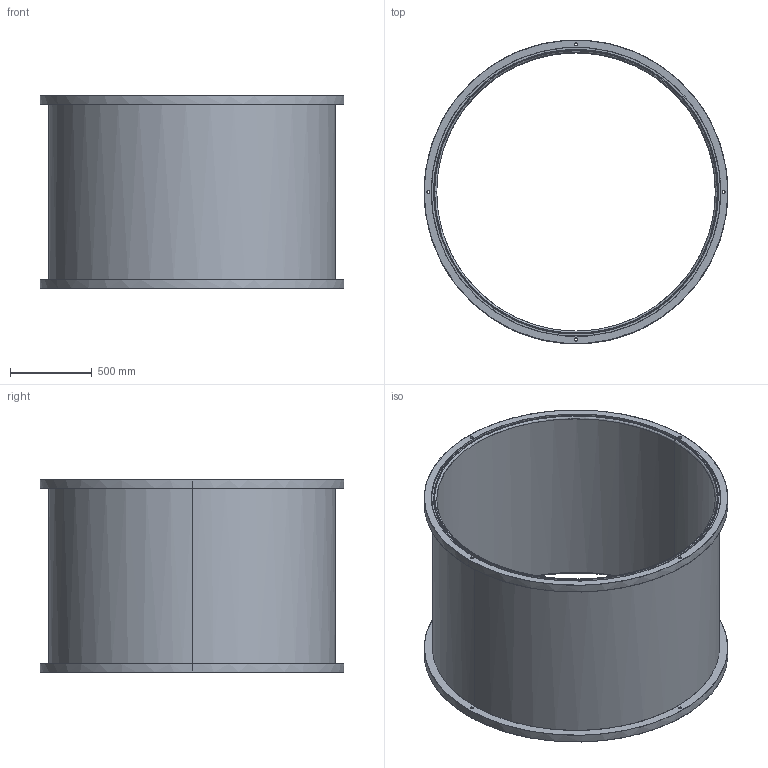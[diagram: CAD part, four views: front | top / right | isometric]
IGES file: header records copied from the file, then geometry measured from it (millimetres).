
Start section: C
Global section: file name: vessel.igs; native system:  By UGS Corp.; preprocessor: XPlus GENERIC/IGES 3.0; author: Author; organization: Title; date: 20110219.170028; units: millimetre
Bounding box: 1852.4 x 1849.54 x 1171.37 mm (x, y, z)
Surface area: 14397701.9 mm2 (no closed solid volume)
Topology: 0 solids, 0 shells, 44 faces, 208 edges, 208 vertices
Faces by surface type: bspline 44
